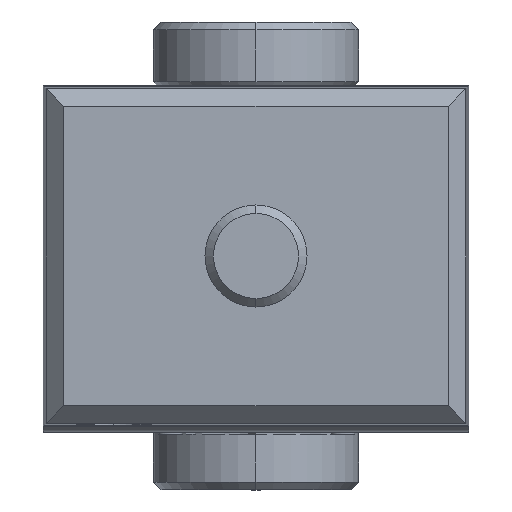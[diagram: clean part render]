
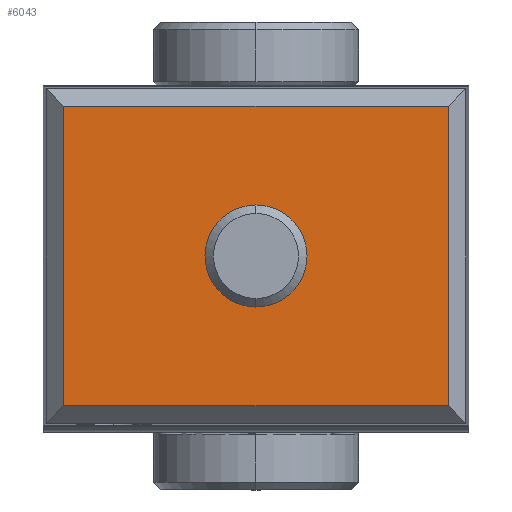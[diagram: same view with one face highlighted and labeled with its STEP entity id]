
A CAD part, front view. The second image highlights one B-rep face of the part: STEP entity #6043.
In plain terms, the highlighted planar face has unit normal (0, -1, 0).
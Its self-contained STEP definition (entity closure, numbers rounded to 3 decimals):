
#5868=CARTESIAN_POINT('',(45.222,-247.,90.222));
#5869=VERTEX_POINT('',#5868);
#5876=CARTESIAN_POINT('',(45.222,-247.,19.778));
#5877=VERTEX_POINT('',#5876);
#5878=CARTESIAN_POINT('',(45.222,-247.,90.222));
#5879=DIRECTION('',(0.0,0.0,-1.0));
#5880=VECTOR('',#5879,70.444);
#5881=LINE('',#5878,#5880);
#5882=EDGE_CURVE('',#5869,#5877,#5881,.T.);
#5907=CARTESIAN_POINT('',(-45.222,-247.,19.778));
#5908=VERTEX_POINT('',#5907);
#5909=CARTESIAN_POINT('',(45.222,-247.,19.778));
#5910=DIRECTION('',(-1.0,0.0,0.0));
#5911=VECTOR('',#5910,90.444);
#5912=LINE('',#5909,#5911);
#5913=EDGE_CURVE('',#5877,#5908,#5912,.T.);
#5937=CARTESIAN_POINT('',(-45.222,-247.,90.222));
#5938=VERTEX_POINT('',#5937);
#5945=CARTESIAN_POINT('',(-45.222,-247.,90.222));
#5946=DIRECTION('',(1.0,0.0,0.0));
#5947=VECTOR('',#5946,90.444);
#5948=LINE('',#5945,#5947);
#5949=EDGE_CURVE('',#5938,#5869,#5948,.T.);
#5967=CARTESIAN_POINT('',(-45.222,-247.,19.778));
#5968=DIRECTION('',(0.0,0.0,1.0));
#5969=VECTOR('',#5968,70.444);
#5970=LINE('',#5967,#5969);
#5971=EDGE_CURVE('',#5908,#5938,#5970,.T.);
#6032=CARTESIAN_POINT('',(0.,-247.,55.));
#6033=DIRECTION('',(0.0,1.0,0.0));
#6034=DIRECTION('',(0.0,0.0,-1.0));
#6035=AXIS2_PLACEMENT_3D('',#6032,#6033,#6034);
#6036=PLANE('',#6035);
#6037=ORIENTED_EDGE('',*,*,#5882,.F.);
#6038=ORIENTED_EDGE('',*,*,#5949,.F.);
#6039=ORIENTED_EDGE('',*,*,#5971,.F.);
#6040=ORIENTED_EDGE('',*,*,#5913,.F.);
#6041=EDGE_LOOP('',(#6037,#6038,#6039,#6040));
#6042=FACE_OUTER_BOUND('',#6041,.T.);
#6043=ADVANCED_FACE('',(#6042),#6036,.F.);
